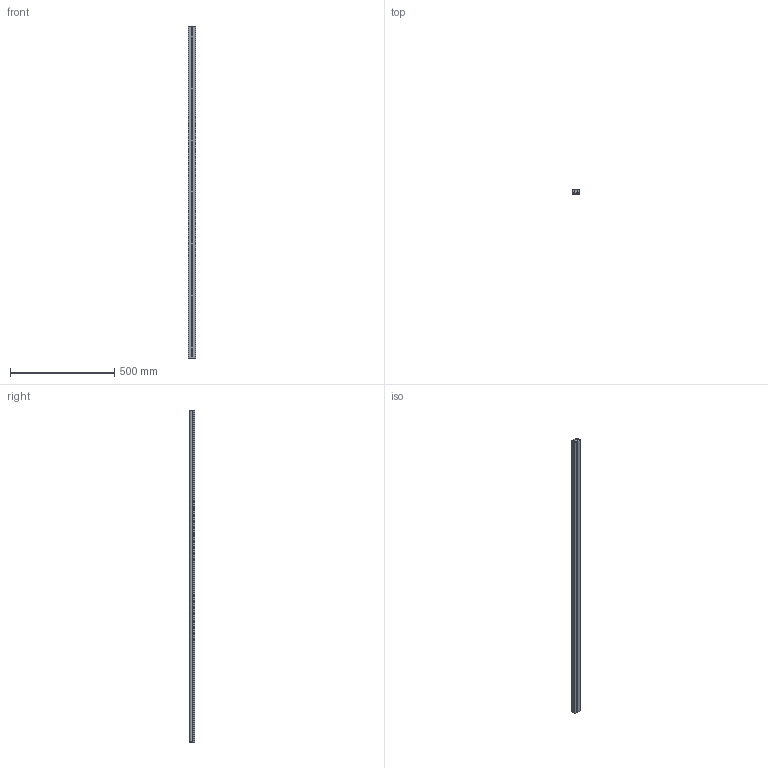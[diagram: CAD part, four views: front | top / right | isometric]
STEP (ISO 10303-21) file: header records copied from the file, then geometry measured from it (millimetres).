
FILE_DESCRIPTION (( 'STEP AP203' ), '1' );
FILE_NAME ('Linearführung_-_LFS-12-10 - L=1596.step', '2011-07-19T09:14:10', ( 'HI' ), ( '' ), 'SwSTEP 2.0', 'SolidWorks 2010', '' );
FILE_SCHEMA (( 'CONFIG_CONTROL_DESIGN' ));
Length unit declared in the file: millimetre
Products named in the file (1): Linearführung_-_LFS-12-10 - L=1596
Bounding box: 36 x 24.5 x 1596 mm (x, y, z)
Volume: 1027950.4 mm3; surface area: 394751.6 mm2
Topology: 1 solids, 1 shells, 734 faces, 1952 edges, 1278 vertices
Faces by surface type: cylinder 345, plane 261, cone 128
Entity records: 30491 total; most frequent: CARTESIAN_POINT 11957, ORIENTED_EDGE 3904, DIRECTION 3740, EDGE_CURVE 1952, AXIS2_PLACEMENT_3D 1437, VERTEX_POINT 1278, EDGE_LOOP 992, VECTOR 866
